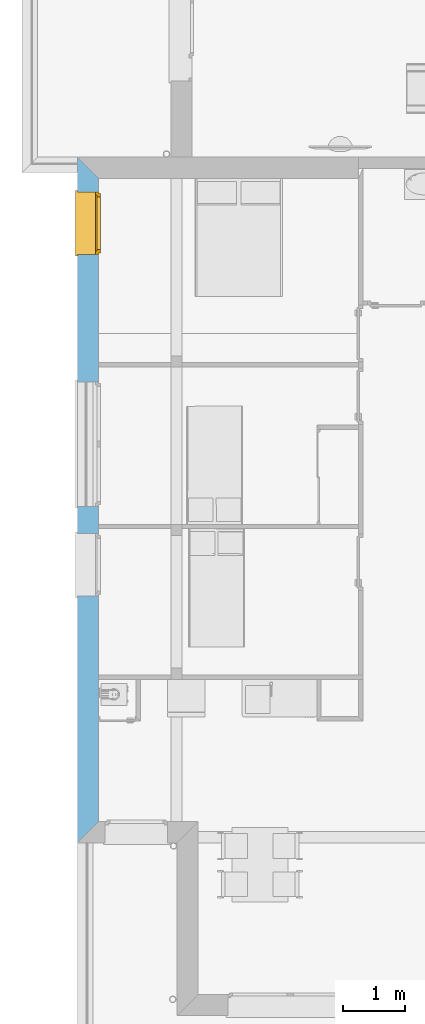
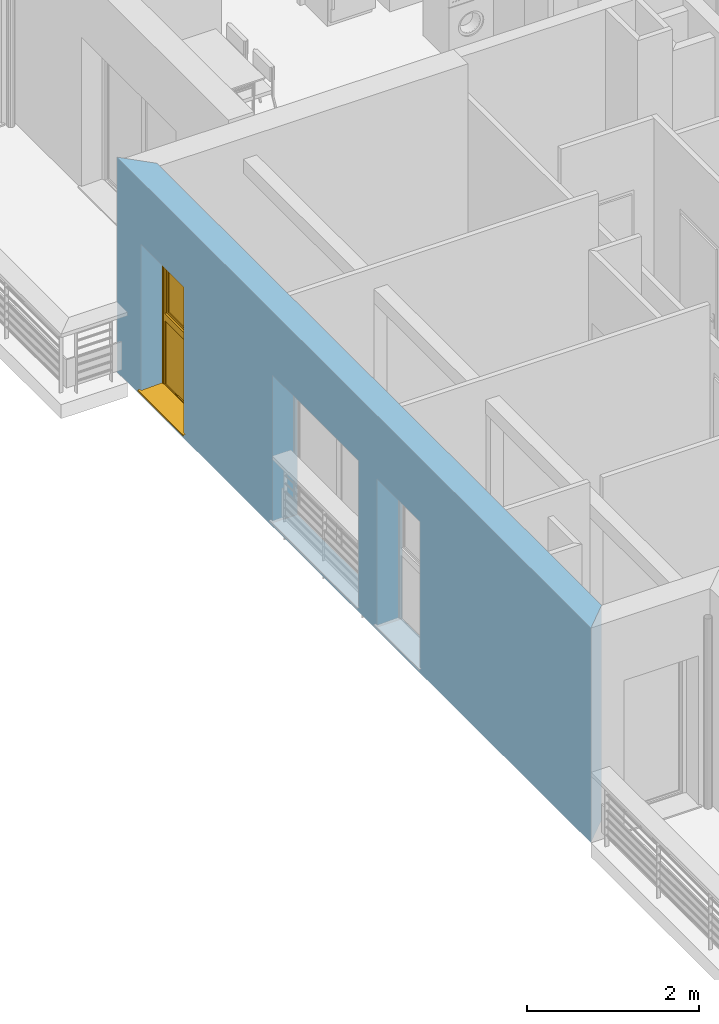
# One storey, part 9 of 165: 1 window, 3 openings, plus 1 element that does not belong to this part.
"""IFC2X3 building model written with IfcOpenShell, lengths in millimetres."""

from ifc_helpers import new_model, entity, si_unit, converted_unit, derived_unit, money_unit, direction, frame, origin_with_axes, place, context, subcontext, project, spatial, polyline, outline, extrude, open_shell, faceted_brep, surface_model, source, transform, mapped, material, layer, layer_set, layer_usage, type_object, element, fill, save


model = new_model("IFC2X3")

# Units and contexts
model_context = context("Model", 3, precision=0.01, world=origin_with_axes(), true_north=direction((0.0, 1.0)))
body_context = subcontext(model_context, "Body", "Model", "MODEL_VIEW")
ifc_project = project(units=[si_unit("LENGTHUNIT", "METRE", prefix="MILLI"), si_unit("AREAUNIT", "SQUARE_METRE"), si_unit("VOLUMEUNIT", "CUBIC_METRE"), converted_unit("PLANEANGLEUNIT", "DEGREE", entity("IfcPlaneAngleMeasure", 0.0174532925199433), si_unit("PLANEANGLEUNIT", "RADIAN"), dimensions=[0, 0, 0, 0, 0, 0, 0]), money_unit("USD"), converted_unit("TIMEUNIT", "Year", entity("IfcTimeMeasure", 31557600.0), si_unit("TIMEUNIT", "SECOND"), dimensions=[0, 0, 1, 0, 0, 0, 0]), si_unit("MASSUNIT", "GRAM", prefix="KILO"), si_unit("THERMODYNAMICTEMPERATUREUNIT", "DEGREE_CELSIUS"), si_unit("LUMINOUSINTENSITYUNIT", "LUMEN"), si_unit("ENERGYUNIT", "JOULE", prefix="MEGA"), derived_unit("THERMALCONDUCTANCEUNIT", [(si_unit("POWERUNIT", "WATT"), 1), (si_unit("LENGTHUNIT", "METRE"), -1), (si_unit("THERMODYNAMICTEMPERATUREUNIT", "KELVIN"), -1)]), derived_unit("SPECIFICHEATCAPACITYUNIT", [(si_unit("ENERGYUNIT", "JOULE"), 1), (si_unit("MASSUNIT", "GRAM", prefix="KILO"), -1), (si_unit("THERMODYNAMICTEMPERATUREUNIT", "KELVIN"), -1)]), derived_unit("MASSDENSITYUNIT", [(si_unit("MASSUNIT", "GRAM", prefix="KILO"), 1), (si_unit("VOLUMEUNIT", "CUBIC_METRE"), -1)])], contexts=[model_context])

# Site, building, storey
site_placement = place(None, origin_with_axes())
site = spatial("IfcSite", under=ifc_project, at=site_placement, Name="Site", CompositionType="ELEMENT")
building_placement = place(site_placement, origin_with_axes())
building = spatial("IfcBuilding", under=site, at=building_placement, Name="Bâtiment", CompositionType="ELEMENT")
storey_placement = place(building_placement, frame((0.0, 0.0, 8500.0), z_axis=(0.0, 0.0, 1.0), x_axis=(1.0, 0.0, 0.0)))
storey = spatial("IfcBuildingStorey", under=building, at=storey_placement, Name="Etage 2", CompositionType="ELEMENT", Elevation=8500.0)

# Wall, openings, window
ifc_material_1 = material(Name="Parpaing 312445824")
ifc_layer_1 = layer(ifc_material_1, 180.0, ventilated="UNKNOWN")
ifc_material_2 = material(Name="Isolant styromousse 301821074")
ifc_layer_2 = layer(ifc_material_2, 160.0, ventilated="UNKNOWN")
ifc_layer_set = layer_set([ifc_layer_1, ifc_layer_2], Name="isol int 18+16 0018356637")
ifc_layer_usage = layer_usage(ifc_layer_set, "AXIS2", "POSITIVE", 0.0)
wall_type = type_object("IfcWallType", Name="isol int 18+16 0018356637 340", PredefinedType="NOTDEFINED")
wall_placement = place(storey_placement, frame((2216634.23334483, -644016.3765232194, 0.0), z_axis=(0.0, 0.0, 1.0), x_axis=(-5.736987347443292e-10, -1.0, 0.0)))
wall = element("IfcWallStandardCase", 1, at=wall_placement, inside=storey, type_object=wall_type, material=ifc_layer_usage, Name="Mur-143", context=body_context, shape_type="SweptSolid", body=[
    extrude(outline(polyline([(0.0, 0.0), (11025.09125507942, 0.0), (10685.09125488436, 340.0000000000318), (339.9999955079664, 340.0000000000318), (0.0, 0.0)])), origin_with_axes(), (0.0, 0.0, 1.0), 3050.0),
])
opening_1_placement = place(wall_placement, frame((4613.39090611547, 0.0, 50.00000000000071), z_axis=(0.0, 0.0, 1.0), x_axis=(1.0, 0.0, 0.0)))
element("IfcOpeningElement", 2, at=opening_1_placement, cuts=wall, Name="Fen-207", context=body_context, shape_type="Brep", body=[
    faceted_brep([(-1000.000000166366, 290.0000020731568, 2100.0), (-1000.000000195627, 341.0000020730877, 2100.0), (-1000.000000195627, 341.0000020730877, 0.0), (-1000.000000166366, 290.0000020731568, 0.0), (-1000.000000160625, 280.0000020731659, 2100.0), (-1000.000000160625, 280.0000020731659, 2350.0), (-1000.000000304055, 530.0000020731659, 2350.0), (-1000.000000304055, 530.0000020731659, 2100.0), (999.9999998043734, 341.0000032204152, 2100.0), (999.9999998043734, 341.0000032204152, 0.0), (999.9999998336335, 290.0000032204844, 0.0), (1000.000000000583, -1.000003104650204, 0.0), (-999.9999999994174, -1.000004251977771, 0.0), (-999.9999999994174, -1.000004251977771, 2100.0), (999.9999998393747, 280.0000032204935, 2100.0), (999.9999998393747, 280.0000032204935, 2350.0), (999.9999996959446, 530.0000032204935, 2350.0), (999.9999996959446, 530.0000032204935, 2100.0), (999.9999998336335, 290.0000032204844, 2100.0), (1000.000000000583, -1.000003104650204, 2100.0)], [[[0, 1, 2, 3]], [[1, 0, 4, 5, 6, 7]], [[1, 8, 9, 2]], [[10, 11, 12, 3, 2, 9]], [[4, 0, 3, 12, 13]], [[4, 14, 15, 5]], [[6, 5, 15, 16]], [[7, 6, 16, 17]], [[8, 1, 7, 17]], [[8, 18, 10, 9]], [[18, 14, 19, 11, 10]], [[13, 12, 11, 19]], [[14, 4, 13, 19]], [[18, 8, 17, 16, 15, 14]]]),
])
opening_2_placement = place(wall_placement, frame((6554.331148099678, 0.0, 50.00000000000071), z_axis=(0.0, 0.0, 1.0), x_axis=(1.0, 0.0, 0.0)))
element("IfcOpeningElement", 3, at=opening_2_placement, cuts=wall, Name="Fen-133", context=body_context, shape_type="Brep", body=[
    faceted_brep([(-500.0000001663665, 290.0000034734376, 2100.0), (-500.0000001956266, 341.0000034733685, 2100.0), (-500.0000001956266, 341.0000034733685, 0.0), (-500.0000001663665, 290.0000034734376, 0.0), (-500.0000001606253, 280.0000034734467, 2100.0), (-500.0000001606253, 280.0000034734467, 2350.0), (-500.0000003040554, 530.0000034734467, 2350.0), (-500.0000003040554, 530.0000034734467, 2100.0), (499.9999998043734, 341.0000040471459, 2100.0), (499.9999998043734, 341.0000040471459, 0.0), (499.9999998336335, 290.000004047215, 0.0), (500.0000000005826, -1.000002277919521, 0.0), (-499.9999999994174, -1.000002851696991, 0.0), (-499.9999999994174, -1.000002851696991, 2100.0), (499.9999998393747, 280.0000040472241, 2100.0), (499.9999998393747, 280.0000040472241, 2350.0), (499.9999996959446, 530.0000040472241, 2350.0), (499.9999996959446, 530.0000040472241, 2100.0), (499.9999998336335, 290.000004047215, 2100.0), (500.0000000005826, -1.000002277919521, 2100.0)], [[[0, 1, 2, 3]], [[1, 0, 4, 5, 6, 7]], [[1, 8, 9, 2]], [[10, 11, 12, 3, 2, 9]], [[4, 0, 3, 12, 13]], [[4, 14, 15, 5]], [[6, 5, 15, 16]], [[7, 6, 16, 17]], [[8, 1, 7, 17]], [[8, 18, 10, 9]], [[18, 14, 19, 11, 10]], [[13, 12, 11, 19]], [[14, 4, 13, 19]], [[18, 8, 17, 16, 15, 14]]]),
])
opening_3_placement = place(wall_placement, frame((1062.585342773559, 0.0, 50.00000000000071), z_axis=(0.0, 0.0, 1.0), x_axis=(1.0, 0.0, 0.0)))
opening_3 = element("IfcOpeningElement", 4, at=opening_3_placement, cuts=wall, Name="Fen-133", context=body_context, shape_type="Brep", body=[
    faceted_brep([(-500.0000001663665, 290.0000003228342, 2100.0), (-500.0000001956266, 341.0000003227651, 2100.0), (-500.0000001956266, 341.0000003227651, 0.0), (-500.0000001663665, 290.0000003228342, 0.0), (-500.0000001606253, 280.0000003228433, 2100.0), (-500.0000001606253, 280.0000003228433, 2350.0), (-500.0000003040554, 530.0000003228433, 2350.0), (-500.0000003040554, 530.0000003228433, 2100.0), (499.9999998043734, 341.0000008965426, 2100.0), (499.9999998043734, 341.0000008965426, 0.0), (499.9999998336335, 290.0000008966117, 0.0), (500.0000000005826, -1.000005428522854, 0.0), (-499.9999999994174, -1.000006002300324, 0.0), (-499.9999999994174, -1.000006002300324, 2100.0), (499.9999998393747, 280.0000008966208, 2100.0), (499.9999998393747, 280.0000008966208, 2350.0), (499.9999996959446, 530.0000008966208, 2350.0), (499.9999996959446, 530.0000008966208, 2100.0), (499.9999998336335, 290.0000008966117, 2100.0), (500.0000000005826, -1.000005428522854, 2100.0)], [[[0, 1, 2, 3]], [[1, 0, 4, 5, 6, 7]], [[1, 8, 9, 2]], [[10, 11, 12, 3, 2, 9]], [[4, 0, 3, 12, 13]], [[4, 14, 15, 5]], [[15, 16, 6, 5]], [[16, 17, 7, 6]], [[8, 1, 7, 17]], [[8, 18, 10, 9]], [[18, 14, 19, 11, 10]], [[13, 12, 11, 19]], [[14, 4, 13, 19]], [[18, 8, 17, 16, 15, 14]]]),
])
window_style = type_object("IfcWindowStyle", Name="Fenêtre 27", ConstructionType="NOTDEFINED", OperationType="DOUBLE_PANEL_HORIZONTAL", ParameterTakesPrecedence=False, Sizeable=False)
shared_shape = source(origin_with_axes(), body_context, "Body", "SurfaceModel", [
    surface_model("IfcShellBasedSurfaceModel", [(500.0, -51.00000000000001, 40.00000000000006), (500.0, -51.00000000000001, 50.00000000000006), (-500.0, -51.00000000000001, 50.0), (-500.0, -51.00000000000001, 40.0), (530.0, -369.9999999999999, 28.96551724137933), (530.0, -339.9999999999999, 30.00324289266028), (500.0, -339.9999999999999, 30.00324289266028), (-500.0, -339.9999999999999, 30.00324289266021), (-530.0, -339.9999999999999, 30.00324289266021), (-530.0, -369.9999999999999, 28.96551724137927), (530.0, -369.9999999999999, 8.96551724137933), (-530.0, -369.9999999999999, 8.965517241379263), (530.0, -359.9999999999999, 18.96551724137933), (-530.0, -359.9999999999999, 18.96551724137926)], [open_shell([[[0, 1, 2, 3]], [[4, 5, 6, 0, 3, 7, 8, 9]], [[10, 4, 9, 11]], [[12, 10, 11, 13]]])]),
    faceted_brep([(-500.0, -59.99999999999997, 2350.0), (-497.0, -59.99999999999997, 2350.0), (-497.0, 190.0, 2350.0), (-500.0, 190.0, 2350.0), (-500.0, -59.99999999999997, 2100.0), (-497.0, -59.99999999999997, 2100.0), (-497.0, 190.0, 2100.0), (-500.0, 190.0, 2100.0)], [[[0, 1, 2, 3]], [[4, 5, 1, 0]], [[1, 5, 6, 2]], [[3, 2, 6, 7]], [[0, 3, 7, 4]], [[7, 6, 5, 4]]]),
    faceted_brep([(497.0, -59.99999999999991, 2350.0), (500.0, -59.99999999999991, 2350.0), (500.0, 190.0000000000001, 2350.0), (497.0, 190.0000000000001, 2350.0), (497.0, -59.99999999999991, 2100.0), (500.0, -59.99999999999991, 2100.0), (500.0, 190.0000000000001, 2100.0), (497.0, 190.0000000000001, 2100.0)], [[[0, 1, 2, 3]], [[4, 5, 1, 0]], [[1, 5, 6, 2]], [[3, 2, 6, 7]], [[0, 3, 7, 4]], [[7, 6, 5, 4]]]),
    faceted_brep([(-497.0, -60.0, 2100.0), (497.0, -59.99999999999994, 2100.0), (497.0, -59.99999999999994, 2350.0), (-497.0, -60.0, 2350.0), (-497.0, -56.99999999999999, 2100.0), (497.0, -56.99999999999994, 2100.0), (497.0, -56.99999999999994, 2347.0), (497.0, 187.0000000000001, 2347.0), (497.0, 187.0000000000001, 2103.0), (497.0, -37.99999999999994, 2103.0), (497.0, -37.99999999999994, 2100.0), (497.0, 190.0000000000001, 2100.0), (497.0, 190.0000000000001, 2350.0), (-497.0, 190.0, 2350.0), (-497.0, 190.0, 2100.0), (-497.0, -37.99999999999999, 2100.0), (-497.0, -37.99999999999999, 2103.0), (-497.0, 187.0, 2103.0), (-497.0, 187.0, 2347.0), (-497.0, -56.99999999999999, 2347.0)], [[[0, 1, 2, 3]], [[4, 5, 1, 0]], [[1, 5, 6, 7, 8, 9, 10, 11, 12, 2]], [[3, 2, 12, 13]], [[0, 3, 13, 14, 15, 16, 17, 18, 19, 4]], [[19, 6, 5, 4]], [[18, 7, 6, 19]], [[17, 8, 7, 18]], [[16, 9, 8, 17]], [[15, 10, 9, 16]], [[14, 11, 10, 15]], [[13, 12, 11, 14]]]),
    faceted_brep([(-494.0, -40.37442957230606, 2206.419644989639), (-494.0, -41.99999999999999, 2225.0), (-494.0, -40.37442957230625, 2243.580355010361), (-494.0, -35.54711042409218, 2261.596155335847), (-494.0, -27.66471820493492, 2278.5), (-494.0, -16.96675541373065, 2293.77827423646), (-494.0, -3.778274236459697, 2306.966755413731), (-494.0, 11.5, 2317.664718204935), (-494.0, 28.40384466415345, 2325.547110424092), (-494.0, 46.41964498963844, 2330.374429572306), (-494.0, 64.99999999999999, 2332.0), (-494.0, 83.58035501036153, 2330.374429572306), (-494.0, 101.5961553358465, 2325.547110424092), (-494.0, 118.5, 2317.664718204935), (-494.0, 133.7782742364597, 2306.966755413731), (-494.0, 146.9667554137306, 2293.77827423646), (-494.0, 157.6647182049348, 2278.5), (-494.0, 165.5471104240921, 2261.596155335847), (-494.0, 170.3744295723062, 2243.580355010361), (-494.0, 171.9999999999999, 2225.0), (-494.0, 170.3744295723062, 2206.419644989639), (-494.0, 165.5471104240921, 2188.403844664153), (-494.0, 157.6647182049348, 2171.5), (-494.0, 146.9667554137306, 2156.22172576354), (-494.0, 133.7782742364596, 2143.03324458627), (-494.0, 118.4999999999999, 2132.335281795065), (-494.0, 101.5961553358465, 2124.452889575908), (-494.0, 83.58035501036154, 2119.625570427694), (-494.0, 65.00000000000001, 2118.0), (-494.0, 46.4196449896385, 2119.625570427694), (-494.0, 28.40384466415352, 2124.452889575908), (-494.0, 11.50000000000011, 2132.335281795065), (-494.0, -3.778274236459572, 2143.03324458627), (-494.0, -16.9667554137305, 2156.22172576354), (-494.0, -27.66471820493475, 2171.5), (-494.0, -35.54711042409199, 2188.403844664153), (494.0, -40.374429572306, 2206.419644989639), (494.0, -41.99999999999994, 2225.0), (494.0, -40.37442957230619, 2243.580355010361), (494.0, -35.54711042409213, 2261.596155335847), (494.0, -27.66471820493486, 2278.5), (494.0, -16.96675541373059, 2293.77827423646), (494.0, -3.778274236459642, 2306.966755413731), (494.0, 11.50000000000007, 2317.664718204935), (494.0, 28.40384466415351, 2325.547110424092), (494.0, 46.41964498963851, 2330.374429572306), (494.0, 65.00000000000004, 2332.0), (494.0, 83.58035501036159, 2330.374429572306), (494.0, 101.5961553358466, 2325.547110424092), (494.0, 118.5, 2317.664718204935), (494.0, 133.7782742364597, 2306.966755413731), (494.0, 146.9667554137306, 2293.77827423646), (494.0, 157.6647182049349, 2278.5), (494.0, 165.5471104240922, 2261.596155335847), (494.0, 170.3744295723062, 2243.580355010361), (494.0, 172.0, 2225.0), (494.0, 170.3744295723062, 2206.419644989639), (494.0, 165.5471104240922, 2188.403844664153), (494.0, 157.6647182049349, 2171.5), (494.0, 146.9667554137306, 2156.22172576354), (494.0, 133.7782742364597, 2143.03324458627), (494.0, 118.5, 2132.335281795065), (494.0, 101.5961553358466, 2124.452889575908), (494.0, 83.5803550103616, 2119.625570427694), (494.0, 65.00000000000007, 2118.0), (494.0, 46.41964498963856, 2119.625570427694), (494.0, 28.40384466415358, 2124.452889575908), (494.0, 11.50000000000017, 2132.335281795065), (494.0, -3.778274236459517, 2143.03324458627), (494.0, -16.96675541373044, 2156.22172576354), (494.0, -27.6647182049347, 2171.5), (494.0, -35.54711042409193, 2188.403844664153)], [[[0, 1, 2, 3, 4, 5, 6, 7, 8, 9, 10, 11, 12, 13, 14, 15, 16, 17, 18, 19, 20, 21, 22, 23, 24, 25, 26, 27, 28, 29, 30, 31, 32, 33, 34, 35]], [[0, 36, 37, 1]], [[1, 37, 38, 2]], [[2, 38, 39, 3]], [[3, 39, 40, 4]], [[4, 40, 41, 5]], [[5, 41, 42, 6]], [[6, 42, 43, 7]], [[7, 43, 44, 8]], [[8, 44, 45, 9]], [[9, 45, 46, 10]], [[10, 46, 47, 11]], [[11, 47, 48, 12]], [[12, 48, 49, 13]], [[13, 49, 50, 14]], [[14, 50, 51, 15]], [[15, 51, 52, 16]], [[16, 52, 53, 17]], [[17, 53, 54, 18]], [[18, 54, 55, 19]], [[19, 55, 56, 20]], [[20, 56, 57, 21]], [[21, 57, 58, 22]], [[22, 58, 59, 23]], [[23, 59, 60, 24]], [[24, 60, 61, 25]], [[25, 61, 62, 26]], [[26, 62, 63, 27]], [[27, 63, 64, 28]], [[28, 64, 65, 29]], [[29, 65, 66, 30]], [[30, 66, 67, 31]], [[31, 67, 68, 32]], [[32, 68, 69, 33]], [[33, 69, 70, 34]], [[34, 70, 71, 35]], [[35, 71, 36, 0]], [[36, 71, 70, 69, 68, 67, 66, 65, 64, 63, 62, 61, 60, 59, 58, 57, 56, 55, 54, 53, 52, 51, 50, 49, 48, 47, 46, 45, 44, 43, 42, 41, 40, 39, 38, 37]]]),
    faceted_brep([(500.0, -34.99999999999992, 30.0), (500.0, -34.99999999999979, 2100.0), (500.0, -59.99999999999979, 2100.0), (500.0, -59.99999999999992, 30.0), (475.0, -34.99999999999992, 30.0), (475.0, -34.99999999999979, 2100.0), (475.0, -37.99999999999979, 2100.0), (497.0, -37.99999999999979, 2100.0), (497.0, -56.99999999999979, 2100.0), (475.0, -56.99999999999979, 2100.0), (475.0, -59.99999999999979, 2100.0), (475.0, -59.99999999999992, 30.0), (475.0, -56.99999999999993, 30.0), (497.0, -56.99999999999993, 30.0), (497.0, -37.99999999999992, 30.0), (475.0, -37.99999999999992, 30.0)], [[[0, 1, 2, 3]], [[4, 5, 1, 0]], [[1, 5, 6, 7, 8, 9, 10, 2]], [[3, 2, 10, 11]], [[0, 3, 11, 12, 13, 14, 15, 4]], [[15, 6, 5, 4]], [[14, 7, 6, 15]], [[13, 8, 7, 14]], [[12, 9, 8, 13]], [[11, 10, 9, 12]]]),
    faceted_brep([(-500.0, -34.99999999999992, 30.0), (-500.0, -59.99999999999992, 30.0), (-500.0, -59.99999999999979, 2100.0), (-500.0, -34.99999999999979, 2100.0), (-475.0, -34.99999999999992, 30.0), (-475.0, -37.99999999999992, 30.0), (-497.0, -37.99999999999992, 30.0), (-497.0, -56.99999999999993, 30.0), (-475.0, -56.99999999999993, 30.0), (-475.0, -59.99999999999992, 30.0), (-475.0, -59.99999999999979, 2100.0), (-475.0, -56.99999999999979, 2100.0), (-497.0, -56.99999999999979, 2100.0), (-497.0, -37.99999999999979, 2100.0), (-475.0, -37.99999999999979, 2100.0), (-475.0, -34.99999999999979, 2100.0)], [[[0, 1, 2, 3]], [[0, 4, 5, 6, 7, 8, 9, 1]], [[1, 9, 10, 2]], [[3, 2, 10, 11, 12, 13, 14, 15]], [[4, 0, 3, 15]], [[5, 4, 15, 14]], [[6, 5, 14, 13]], [[7, 6, 13, 12]], [[8, 7, 12, 11]], [[9, 8, 11, 10]]]),
    faceted_brep([(497.0, -46.66666666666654, 2225.0), (497.0, -46.66666666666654, 2216.666666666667), (-497.0, -46.6666666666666, 2216.666666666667), (-497.0, -46.6666666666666, 2225.0), (497.0, -51.66666666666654, 2225.0), (497.0, -51.66666666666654, 2216.666666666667), (497.0, -49.99999999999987, 2200.0), (497.0, -44.99999999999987, 2200.0), (-497.0, -44.99999999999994, 2200.0), (-497.0, -49.99999999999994, 2200.0), (-497.0, -51.6666666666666, 2216.666666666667), (-497.0, -51.6666666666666, 2225.0)], [[[0, 1, 2, 3]], [[4, 5, 6, 7, 1, 0]], [[2, 1, 7, 8]], [[3, 2, 8, 9, 10, 11]], [[3, 11, 4, 0]], [[10, 5, 4, 11]], [[9, 6, 5, 10]], [[8, 7, 6, 9]]]),
    faceted_brep([(-497.0, -44.99999999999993, 2200.0), (497.0, -44.99999999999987, 2200.0), (497.0, -46.66666666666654, 2183.333333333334), (-497.0, -46.6666666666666, 2183.333333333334), (-497.0, -49.99999999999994, 2200.0), (497.0, -49.99999999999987, 2200.0), (497.0, -51.66666666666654, 2183.333333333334), (497.0, -51.66666666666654, 2166.666666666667), (497.0, -49.99999999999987, 2150.000000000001), (497.0, -44.99999999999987, 2150.000000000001), (497.0, -46.66666666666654, 2166.666666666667), (-497.0, -46.6666666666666, 2166.666666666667), (-497.0, -44.99999999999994, 2150.000000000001), (-497.0, -49.99999999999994, 2150.000000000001), (-497.0, -51.6666666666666, 2166.666666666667), (-497.0, -51.6666666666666, 2183.333333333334)], [[[0, 1, 2, 3]], [[4, 5, 1, 0]], [[1, 5, 6, 7, 8, 9, 10, 2]], [[3, 2, 10, 11]], [[0, 3, 11, 12, 13, 14, 15, 4]], [[15, 6, 5, 4]], [[14, 7, 6, 15]], [[13, 8, 7, 14]], [[12, 9, 8, 13]], [[11, 10, 9, 12]]]),
    faceted_brep([(-497.0, -44.99999999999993, 2150.000000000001), (497.0, -44.99999999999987, 2150.000000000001), (497.0, -46.66666666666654, 2133.333333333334), (-497.0, -46.6666666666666, 2133.333333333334), (-497.0, -49.99999999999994, 2150.000000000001), (497.0, -49.99999999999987, 2150.000000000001), (497.0, -51.66666666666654, 2133.333333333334), (497.0, -51.66666666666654, 2116.666666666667), (497.0, -49.99999999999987, 2100.000000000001), (497.0, -44.99999999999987, 2100.000000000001), (497.0, -46.66666666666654, 2116.666666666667), (-497.0, -46.6666666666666, 2116.666666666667), (-497.0, -44.99999999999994, 2100.000000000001), (-497.0, -49.99999999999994, 2100.000000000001), (-497.0, -51.6666666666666, 2116.666666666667), (-497.0, -51.6666666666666, 2133.333333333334)], [[[0, 1, 2, 3]], [[4, 5, 1, 0]], [[1, 5, 6, 7, 8, 9, 10, 2]], [[3, 2, 10, 11]], [[0, 3, 11, 12, 13, 14, 15, 4]], [[15, 6, 5, 4]], [[14, 7, 6, 15]], [[13, 8, 7, 14]], [[12, 9, 8, 13]], [[11, 10, 9, 12]]]),
    faceted_brep([(-475.0000000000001, 0.0, 2050.0), (-500.0, 0.0, 2050.0), (-500.0, -50.00000000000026, 2050.0), (-450.0, -50.00000000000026, 2050.0), (-450.0, -25.00000000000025, 2050.0), (-475.0000000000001, -25.00000000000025, 2050.0), (-475.0000000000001, 0.0, 1025.0), (-450.0, 0.0, 1025.0), (-450.0, 0.0, 950.0), (-450.0, 0.0, 50.00000000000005), (-500.0, 0.0, 50.00000000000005), (-500.0, -50.00000000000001, 50.00000000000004), (-450.0, -50.00000000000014, 1050.0), (-450.0, -50.00000000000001, 50.00000000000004), (-450.0, -50.00000000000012, 950.0), (-450.0, -25.00000000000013, 1050.0), (-450.0, -25.00000000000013, 1025.0), (-475.0000000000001, -25.00000000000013, 1025.0)], [[[0, 1, 2, 3, 4, 5]], [[6, 7, 8, 9, 10, 1, 0]], [[1, 10, 11, 2]], [[12, 3, 2, 11, 13, 14]], [[4, 3, 12, 15]], [[15, 16, 17, 5, 4]], [[5, 17, 6, 0]], [[6, 17, 16, 7]], [[16, 15, 12, 14, 8, 7]], [[9, 8, 14, 13]], [[10, 9, 13, 11]]]),
    faceted_brep([(450.0, -25.00000000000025, 2050.0), (450.0, -50.00000000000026, 2050.0), (500.0, -50.00000000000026, 2050.0), (500.0, 0.0, 2050.0), (475.0000000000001, 0.0, 2050.0), (475.0000000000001, -25.00000000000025, 2050.0), (450.0, -25.00000000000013, 1050.0), (450.0, -50.00000000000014, 1050.0), (500.0, -50.00000000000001, 50.00000000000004), (450.0, -50.00000000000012, 950.0), (450.0, -50.00000000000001, 50.00000000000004), (500.0, 0.0, 50.00000000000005), (475.0000000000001, 0.0, 1025.0), (450.0, 0.0, 50.00000000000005), (450.0, 0.0, 950.0), (450.0, 0.0, 1025.0), (475.0000000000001, -25.00000000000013, 1025.0), (450.0, -25.00000000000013, 1025.0)], [[[0, 1, 2, 3, 4, 5]], [[6, 7, 1, 0]], [[8, 2, 1, 7, 9, 10]], [[11, 3, 2, 8]], [[12, 4, 3, 11, 13, 14, 15]], [[12, 16, 5, 4]], [[5, 16, 17, 6, 0]], [[17, 15, 14, 9, 7, 6]], [[14, 13, 10, 9]], [[13, 11, 8, 10]], [[15, 17, 16, 12]]]),
    faceted_brep([(-450.0, -25.00000000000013, 1050.0), (-450.0, -50.00000000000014, 1050.0), (450.0, -50.00000000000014, 1050.0), (450.0, -25.00000000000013, 1050.0), (-450.0, -25.00000000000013, 1025.0), (-450.0, 0.0, 1025.0), (-450.0, 0.0, 950.0), (-450.0, -50.00000000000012, 950.0), (450.0, -50.00000000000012, 950.0), (450.0, -25.00000000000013, 1025.0), (450.0, 0.0, 950.0), (450.0, 0.0, 1025.0)], [[[0, 1, 2, 3]], [[4, 5, 6, 7, 1, 0]], [[8, 2, 1, 7]], [[9, 3, 2, 8, 10, 11]], [[9, 4, 0, 3]], [[5, 4, 9, 11]], [[11, 10, 6, 5]], [[6, 10, 8, 7]]]),
    faceted_brep([(-475.0000000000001, 0.0, 2050.0), (-500.0, 0.0, 2050.0), (-500.0, 0.0, 2100.0), (500.0, 0.0, 2100.0), (500.0, 0.0, 2050.0), (475.0000000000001, 0.0, 2050.0), (475.0000000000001, 0.0, 2075.0), (-475.0000000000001, 0.0, 2075.0), (-475.0000000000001, -25.00000000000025, 2050.0), (-450.0, -25.00000000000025, 2050.0), (-450.0, -50.00000000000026, 2050.0), (-500.0, -50.00000000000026, 2050.0), (-500.0, -50.00000000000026, 2100.0), (500.0, -50.00000000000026, 2100.0), (500.0, -50.00000000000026, 2050.0), (475.0000000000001, -25.00000000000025, 2050.0), (450.0, -50.00000000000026, 2050.0), (450.0, -25.00000000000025, 2050.0), (475.0000000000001, -25.00000000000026, 2075.0), (-475.0000000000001, -25.00000000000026, 2075.0)], [[[0, 1, 2, 3, 4, 5, 6, 7]], [[8, 9, 10, 11, 1, 0]], [[2, 1, 11, 12]], [[3, 2, 12, 13]], [[4, 3, 13, 14]], [[15, 5, 4, 14, 16, 17]], [[5, 15, 18, 6]], [[6, 18, 19, 7]], [[7, 19, 8, 0]], [[17, 9, 8, 19, 18, 15]], [[17, 16, 10, 9]], [[14, 13, 12, 11, 10, 16]]]),
    faceted_brep([(-450.0, -50.00000000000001, 50.0), (-450.0, 0.0, 50.00000000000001), (-500.0, 0.0, 50.00000000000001), (-500.0, -50.00000000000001, 50.0), (450.0, -50.00000000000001, 50.0), (450.0, 0.0, 50.00000000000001), (500.0, 0.0, 50.00000000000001), (500.0, 0.0, 0.0), (-500.0, 0.0, 0.0), (-500.0, -50.0, 0.0), (500.0, -50.0, 0.0), (500.0, -50.00000000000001, 50.0)], [[[0, 1, 2, 3]], [[4, 5, 1, 0]], [[1, 5, 6, 7, 8, 2]], [[3, 2, 8, 9]], [[0, 3, 9, 10, 11, 4]], [[11, 6, 5, 4]], [[10, 7, 6, 11]], [[9, 8, 7, 10]]]),
    faceted_brep([(-425.0000000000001, -25.00000000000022, 2025.0), (-425.0000000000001, 24.99999999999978, 2025.0), (-475.0000000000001, 24.99999999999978, 2025.0), (-475.0000000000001, -25.00000000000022, 2025.0), (-425.0000000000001, -25.00000000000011, 1075.0), (-425.0000000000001, 24.9999999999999, 1075.0), (-475.0000000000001, 24.9999999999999, 1075.0), (-475.0000000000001, -25.0000000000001, 1075.0)], [[[0, 1, 2, 3]], [[4, 5, 1, 0]], [[1, 5, 6, 2]], [[3, 2, 6, 7]], [[0, 3, 7, 4]], [[7, 6, 5, 4]]]),
    faceted_brep([(425.0000000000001, -25.00000000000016, 1075.0), (425.0000000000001, 24.99999999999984, 1075.0), (475.0000000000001, 24.99999999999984, 1075.0), (475.0000000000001, -25.00000000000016, 1075.0), (425.0000000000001, -25.00000000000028, 2025.0), (425.0000000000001, 24.99999999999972, 2025.0), (475.0000000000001, 24.99999999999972, 2025.0), (475.0000000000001, -25.00000000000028, 2025.0)], [[[0, 1, 2, 3]], [[4, 5, 1, 0]], [[1, 5, 6, 2]], [[3, 2, 6, 7]], [[0, 3, 7, 4]], [[7, 6, 5, 4]]]),
    faceted_brep([(475.0000000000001, -25.00000000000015, 1025.0), (475.0000000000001, 24.99999999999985, 1025.0), (475.0000000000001, 24.99999999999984, 1075.0), (475.0000000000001, -25.00000000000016, 1075.0), (-475.0000000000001, -25.0000000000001, 1025.0), (-475.0000000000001, 24.9999999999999, 1025.0), (-475.0000000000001, 24.9999999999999, 1075.0), (-425.0000000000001, 24.9999999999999, 1075.0), (425.0000000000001, 24.99999999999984, 1075.0), (425.0000000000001, -25.00000000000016, 1075.0), (-425.0000000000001, -25.00000000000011, 1075.0), (-475.0000000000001, -25.0000000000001, 1075.0)], [[[0, 1, 2, 3]], [[4, 5, 1, 0]], [[1, 5, 6, 7, 8, 2]], [[3, 2, 8, 9]], [[0, 3, 9, 10, 11, 4]], [[11, 6, 5, 4]], [[10, 7, 6, 11]], [[9, 8, 7, 10]]]),
    faceted_brep([(-475.0000000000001, -25.00000000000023, 2075.0), (-475.0000000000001, 24.99999999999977, 2075.0), (-475.0000000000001, 24.99999999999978, 2025.0), (-475.0000000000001, -25.00000000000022, 2025.0), (475.0000000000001, -25.00000000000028, 2075.0), (475.0000000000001, 24.99999999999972, 2075.0), (475.0000000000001, 24.99999999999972, 2025.0), (425.0000000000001, 24.99999999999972, 2025.0), (-425.0000000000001, 24.99999999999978, 2025.0), (-425.0000000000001, -25.00000000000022, 2025.0), (425.0000000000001, -25.00000000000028, 2025.0), (475.0000000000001, -25.00000000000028, 2025.0)], [[[0, 1, 2, 3]], [[4, 5, 1, 0]], [[1, 5, 6, 7, 8, 2]], [[3, 2, 8, 9]], [[0, 3, 9, 10, 11, 4]], [[11, 6, 5, 4]], [[10, 7, 6, 11]], [[9, 8, 7, 10]]]),
    surface_model("IfcShellBasedSurfaceModel", [(-425.0000000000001, -10.00000000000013, 1075.0), (425.0000000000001, -10.00000000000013, 1075.0), (425.0000000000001, -10.00000000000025, 2025.0), (-425.0000000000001, -10.00000000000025, 2025.0)], [open_shell([[[0, 1, 2, 3]]])]),
    surface_model("IfcShellBasedSurfaceModel", [(-425.0000000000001, 9.999999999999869, 1075.0), (-425.0000000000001, 9.999999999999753, 2025.0), (425.0000000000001, 9.999999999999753, 2025.0), (425.0000000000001, 9.999999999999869, 1075.0)], [open_shell([[[0, 1, 2, 3]]])]),
    surface_model("IfcShellBasedSurfaceModel", [(-450.0, -35.0, 49.99999999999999), (450.0, -35.0, 49.99999999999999), (450.0, -35.00000000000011, 950.0), (-450.0, -35.00000000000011, 950.0)], [open_shell([[[0, 1, 2, 3]]])]),
    surface_model("IfcShellBasedSurfaceModel", [(-450.0, -15.0, 49.99999999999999), (-450.0, -15.00000000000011, 950.0), (450.0, -15.00000000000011, 950.0), (450.0, -15.0, 49.99999999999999)], [open_shell([[[0, 1, 2, 3]]])]),
])
window_placement = place(opening_3_placement, frame((-500.0, 2.273736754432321e-10, 0.0), z_axis=(0.0, 0.0, 1.0), x_axis=(1.0, 0.0, 0.0)))
window = element("IfcWindow", 5, at=window_placement, inside=storey, type_object=window_style, Name="Fen-133", OverallHeight=2100.0, OverallWidth=1000.0, context=body_context, shape_type="MappedRepresentation", body=[
    mapped(shared_shape, transform((499.9999998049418, 340.0000006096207, 0.0))),
])
fill(opening_3, window)

save(model, "model.ifc")
